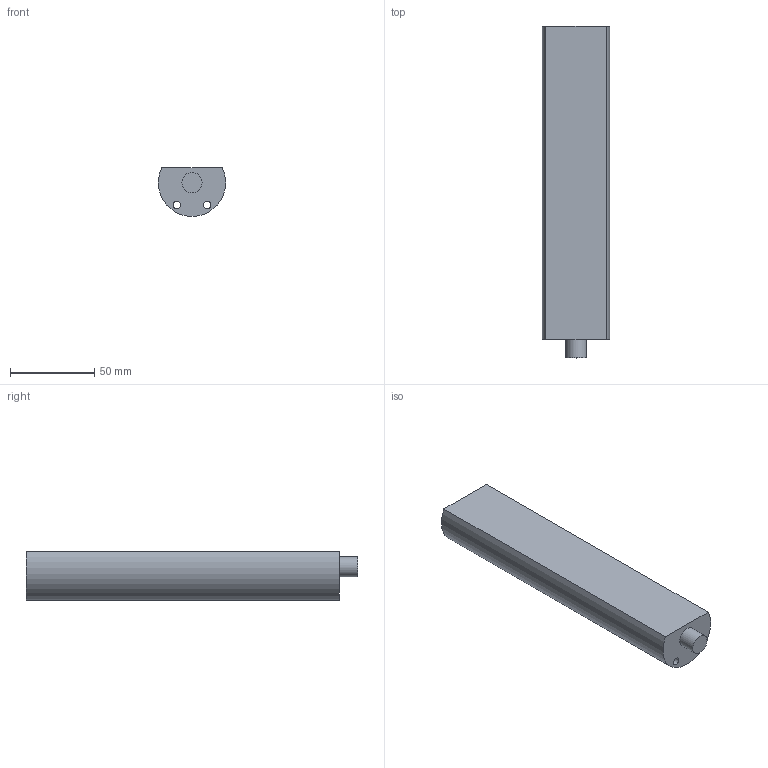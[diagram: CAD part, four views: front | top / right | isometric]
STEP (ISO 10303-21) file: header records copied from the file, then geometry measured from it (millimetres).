
FILE_DESCRIPTION(('FreeCAD Model'),'2;1');
FILE_NAME('Open CASCADE Shape Model','2024-04-10T09:58:35',(''),(''), 'Open CASCADE STEP processor 7.6','FreeCAD','Unknown');
FILE_SCHEMA(('AUTOMOTIVE_DESIGN { 1 0 10303 214 1 1 1 1 }'));
Length unit declared in the file: millimetre
Products named in the file (1): Körper
Bounding box: 39.96 x 197 x 29 mm (x, y, z)
Volume: 176820.9 mm3; surface area: 29365.2 mm2
Topology: 1 solids, 1 shells, 8 faces, 15 edges, 10 vertices
Faces by surface type: cylinder 4, plane 4
Full cylindrical faces by diameter (mm): 4.5 x2, 12 x1
Entity records: 237 total; most frequent: DIRECTION 41, CARTESIAN_POINT 34, ORIENTED_EDGE 30, AXIS2_PLACEMENT_3D 17, EDGE_CURVE 15, FACE_BOUND 13, EDGE_LOOP 13, VERTEX_POINT 10
